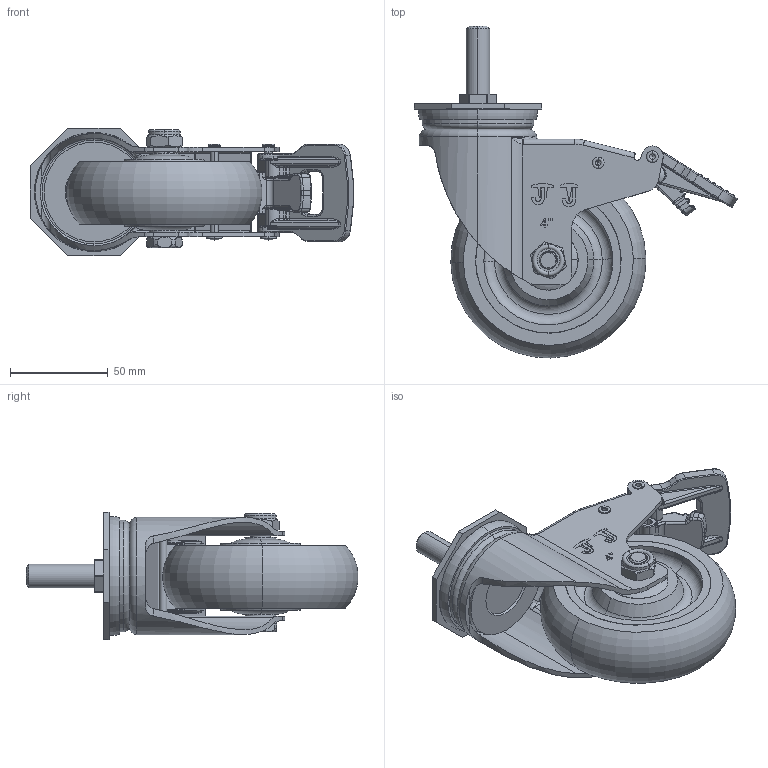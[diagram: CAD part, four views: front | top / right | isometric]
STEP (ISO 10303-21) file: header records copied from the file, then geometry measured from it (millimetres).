
FILE_DESCRIPTION (( 'STEP AP203' ), '1' );
FILE_NAME ('4寸丝扣万向刹车.STEP', '2024-03-19T03:39:38', ( '微软用户' ), ( '微软中国' ), 'SwSTEP 2.0', 'SolidWorks 2008', '' );
FILE_SCHEMA (( 'CONFIG_CONTROL_DESIGN' ));
Length unit declared in the file: millimetre
Products named in the file (10): 3.9｡ﾁ39ﾎｲｿﾗｶ､_ﾄｬﾈﾏ; 3.9｡ﾁ49ﾎｲｿﾗｶ､_ﾄｬﾈﾏ; M10-55蹟裝; 4渡佪諶勀砃价陬; 2023-3-8  中型4寸（AB刹）支架B_默认; 刹车手柄ON_默认; 解刹手柄OFF   B_默认; M10蹟譫; 100×32轮子_默认; 丝扣_默认
Assembly tree (10 placements, depth 2):
  4渡佪諶勀砃价陬
    丝扣_默认
    M10蹟譫
    解刹手柄OFF   B_默认
    刹车手柄ON_默认
    3.9｡ﾁ49ﾎｲｿﾗｶ､_ﾄｬﾈﾏ  x2
    2023-3-8  中型4寸（AB刹）支架B_默认
    3.9｡ﾁ39ﾎｲｿﾗｶ､_ﾄｬﾈﾏ
    M10-55蹟裝
    100×32轮子_默认
Bounding box: 165.29 x 169.81 x 65.01 mm (x, y, z)
Volume: 327036 mm3; surface area: 99457.7 mm2
Topology: 10 solids, 10 shells, 1188 faces, 2887 edges, 1759 vertices
Faces by surface type: cylinder 401, plane 352, bspline 293, torus 96, cone 32, sphere 14
Entity records: 49278 total; most frequent: CARTESIAN_POINT 23035, ORIENTED_EDGE 5640, DIRECTION 4668, EDGE_CURVE 2820, VERTEX_POINT 1737, AXIS2_PLACEMENT_3D 1711, EDGE_LOOP 1269, VECTOR 1246
